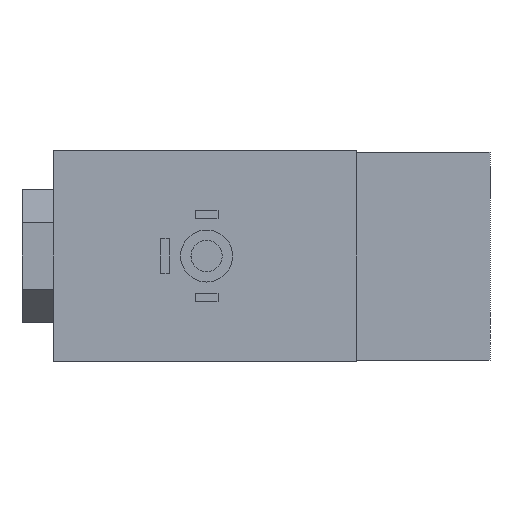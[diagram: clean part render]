
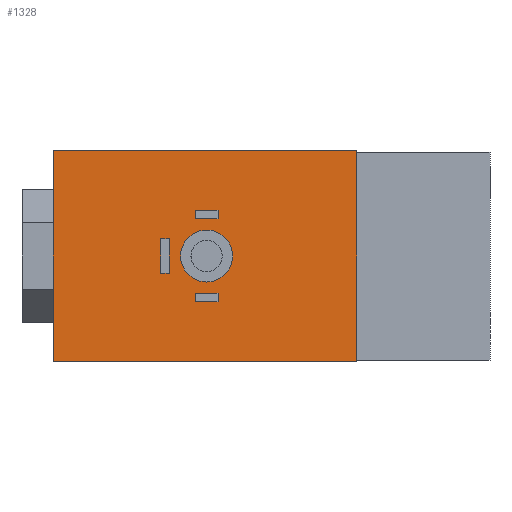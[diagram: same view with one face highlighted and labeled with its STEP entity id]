
A CAD part, left-side view. The second image highlights one B-rep face of the part: STEP entity #1328.
In plain terms, the highlighted planar face has unit normal (-1, 0, 0).
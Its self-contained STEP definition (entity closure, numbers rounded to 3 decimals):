
#43=LINE('',#1771,#127);
#46=LINE('',#1778,#130);
#55=LINE('',#1800,#139);
#57=LINE('',#1805,#141);
#58=LINE('',#1808,#142);
#59=LINE('',#1810,#143);
#60=LINE('',#1812,#144);
#61=LINE('',#1813,#145);
#62=LINE('',#1816,#146);
#63=LINE('',#1818,#147);
#64=LINE('',#1820,#148);
#65=LINE('',#1821,#149);
#66=LINE('',#1824,#150);
#67=LINE('',#1826,#151);
#68=LINE('',#1828,#152);
#69=LINE('',#1829,#153);
#127=VECTOR('',#1496,1000.);
#130=VECTOR('',#1501,1000.);
#139=VECTOR('',#1516,1000.);
#141=VECTOR('',#1522,1000.);
#142=VECTOR('',#1523,1000.);
#143=VECTOR('',#1524,1000.);
#144=VECTOR('',#1525,1000.);
#145=VECTOR('',#1526,1000.);
#146=VECTOR('',#1527,1000.);
#147=VECTOR('',#1528,1000.);
#148=VECTOR('',#1529,1000.);
#149=VECTOR('',#1530,1000.);
#150=VECTOR('',#1531,1000.);
#151=VECTOR('',#1532,1000.);
#152=VECTOR('',#1533,1000.);
#153=VECTOR('',#1534,1000.);
#231=ORIENTED_EDGE('',*,*,#461,.T.);
#232=ORIENTED_EDGE('',*,*,#462,.T.);
#233=ORIENTED_EDGE('',*,*,#463,.T.);
#234=ORIENTED_EDGE('',*,*,#464,.T.);
#235=ORIENTED_EDGE('',*,*,#465,.T.);
#236=ORIENTED_EDGE('',*,*,#466,.T.);
#237=ORIENTED_EDGE('',*,*,#467,.T.);
#238=ORIENTED_EDGE('',*,*,#468,.T.);
#239=ORIENTED_EDGE('',*,*,#469,.T.);
#240=ORIENTED_EDGE('',*,*,#470,.T.);
#241=ORIENTED_EDGE('',*,*,#471,.T.);
#242=ORIENTED_EDGE('',*,*,#472,.T.);
#243=ORIENTED_EDGE('',*,*,#473,.T.);
#244=ORIENTED_EDGE('',*,*,#445,.T.);
#245=ORIENTED_EDGE('',*,*,#474,.F.);
#246=ORIENTED_EDGE('',*,*,#448,.F.);
#247=ORIENTED_EDGE('',*,*,#459,.T.);
#445=EDGE_CURVE('',#562,#561,#43,.T.);
#448=EDGE_CURVE('',#564,#565,#46,.T.);
#459=EDGE_CURVE('',#564,#562,#55,.T.);
#461=EDGE_CURVE('',#575,#575,#643,.T.);
#462=EDGE_CURVE('',#576,#577,#57,.T.);
#463=EDGE_CURVE('',#577,#578,#58,.T.);
#464=EDGE_CURVE('',#578,#579,#59,.T.);
#465=EDGE_CURVE('',#579,#576,#60,.T.);
#466=EDGE_CURVE('',#580,#581,#61,.T.);
#467=EDGE_CURVE('',#581,#582,#62,.T.);
#468=EDGE_CURVE('',#582,#583,#63,.T.);
#469=EDGE_CURVE('',#583,#580,#64,.T.);
#470=EDGE_CURVE('',#584,#585,#65,.T.);
#471=EDGE_CURVE('',#585,#586,#66,.T.);
#472=EDGE_CURVE('',#586,#587,#67,.T.);
#473=EDGE_CURVE('',#587,#584,#68,.T.);
#474=EDGE_CURVE('',#565,#561,#69,.T.);
#561=VERTEX_POINT('',#1770);
#562=VERTEX_POINT('',#1772);
#564=VERTEX_POINT('',#1777);
#565=VERTEX_POINT('',#1779);
#575=VERTEX_POINT('',#1804);
#576=VERTEX_POINT('',#1806);
#577=VERTEX_POINT('',#1807);
#578=VERTEX_POINT('',#1809);
#579=VERTEX_POINT('',#1811);
#580=VERTEX_POINT('',#1814);
#581=VERTEX_POINT('',#1815);
#582=VERTEX_POINT('',#1817);
#583=VERTEX_POINT('',#1819);
#584=VERTEX_POINT('',#1822);
#585=VERTEX_POINT('',#1823);
#586=VERTEX_POINT('',#1825);
#587=VERTEX_POINT('',#1827);
#643=CIRCLE('',#1399,2.5);
#675=EDGE_LOOP('',(#231));
#676=EDGE_LOOP('',(#232,#233,#234,#235));
#677=EDGE_LOOP('',(#236,#237,#238,#239));
#678=EDGE_LOOP('',(#240,#241,#242,#243));
#679=EDGE_LOOP('',(#244,#245,#246,#247));
#765=FACE_BOUND('',#675,.T.);
#766=FACE_BOUND('',#676,.T.);
#767=FACE_BOUND('',#677,.T.);
#768=FACE_BOUND('',#678,.T.);
#769=FACE_BOUND('',#679,.T.);
#854=PLANE('',#1398);
#1328=ADVANCED_FACE('',(#765,#766,#767,#768,#769),#854,.F.);
#1398=AXIS2_PLACEMENT_3D('',#1802,#1518,#1519);
#1399=AXIS2_PLACEMENT_3D('',#1803,#1520,#1521);
#1496=DIRECTION('',(0.,0.,1.));
#1501=DIRECTION('',(0.,0.,1.));
#1516=DIRECTION('',(0.,-1.,0.));
#1518=DIRECTION('',(1.,0.,0.));
#1519=DIRECTION('',(0.,0.,-1.));
#1520=DIRECTION('',(1.,0.,0.));
#1521=DIRECTION('',(0.,0.,-1.));
#1522=DIRECTION('',(0.,1.,0.));
#1523=DIRECTION('',(0.,0.,1.));
#1524=DIRECTION('',(0.,-1.,0.));
#1525=DIRECTION('',(0.,0.,-1.));
#1526=DIRECTION('',(0.,1.,0.));
#1527=DIRECTION('',(0.,0.,1.));
#1528=DIRECTION('',(0.,-1.,0.));
#1529=DIRECTION('',(0.,0.,-1.));
#1530=DIRECTION('',(0.,0.,1.));
#1531=DIRECTION('',(0.,-1.,0.));
#1532=DIRECTION('',(0.,0.,-1.));
#1533=DIRECTION('',(0.,1.,0.));
#1534=DIRECTION('',(0.,-1.,0.));
#1770=CARTESIAN_POINT('',(-16.3,0.,10.1));
#1771=CARTESIAN_POINT('',(-16.3,0.,-10.1));
#1772=CARTESIAN_POINT('',(-16.3,0.,-10.1));
#1777=CARTESIAN_POINT('',(-16.3,29.2,-10.1));
#1778=CARTESIAN_POINT('',(-16.3,29.2,-10.1));
#1779=CARTESIAN_POINT('',(-16.3,29.2,10.1));
#1800=CARTESIAN_POINT('',(-16.3,29.2,-10.1));
#1802=CARTESIAN_POINT('',(-16.3,29.2,-10.1));
#1803=CARTESIAN_POINT('',(-16.3,14.45,0.));
#1804=CARTESIAN_POINT('',(-16.3,14.45,-2.5));
#1805=CARTESIAN_POINT('',(-16.3,13.35,-4.4));
#1806=CARTESIAN_POINT('',(-16.3,13.35,-4.4));
#1807=CARTESIAN_POINT('',(-16.3,15.55,-4.4));
#1808=CARTESIAN_POINT('',(-16.3,15.55,-4.4));
#1809=CARTESIAN_POINT('',(-16.3,15.55,-3.6));
#1810=CARTESIAN_POINT('',(-16.3,15.55,-3.6));
#1811=CARTESIAN_POINT('',(-16.3,13.35,-3.6));
#1812=CARTESIAN_POINT('',(-16.3,13.35,-3.6));
#1813=CARTESIAN_POINT('',(-16.3,13.35,3.6));
#1814=CARTESIAN_POINT('',(-16.3,13.35,3.6));
#1815=CARTESIAN_POINT('',(-16.3,15.55,3.6));
#1816=CARTESIAN_POINT('',(-16.3,15.55,3.6));
#1817=CARTESIAN_POINT('',(-16.3,15.55,4.4));
#1818=CARTESIAN_POINT('',(-16.3,15.55,4.4));
#1819=CARTESIAN_POINT('',(-16.3,13.35,4.4));
#1820=CARTESIAN_POINT('',(-16.3,13.35,4.4));
#1821=CARTESIAN_POINT('',(-16.3,18.85,-1.65));
#1822=CARTESIAN_POINT('',(-16.3,18.85,-1.65));
#1823=CARTESIAN_POINT('',(-16.3,18.85,1.65));
#1824=CARTESIAN_POINT('',(-16.3,18.85,1.65));
#1825=CARTESIAN_POINT('',(-16.3,18.05,1.65));
#1826=CARTESIAN_POINT('',(-16.3,18.05,1.65));
#1827=CARTESIAN_POINT('',(-16.3,18.05,-1.65));
#1828=CARTESIAN_POINT('',(-16.3,18.05,-1.65));
#1829=CARTESIAN_POINT('',(-16.3,29.2,10.1));
